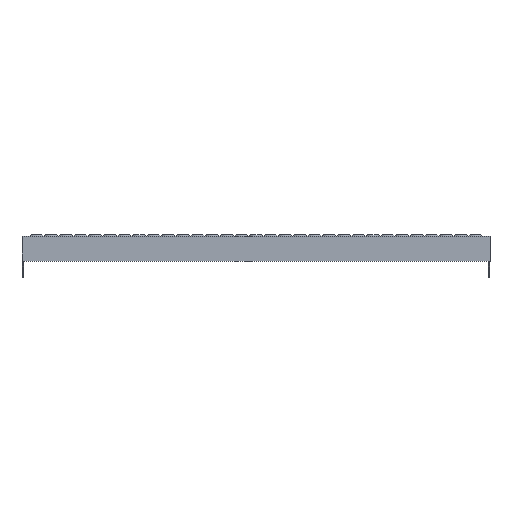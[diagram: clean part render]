
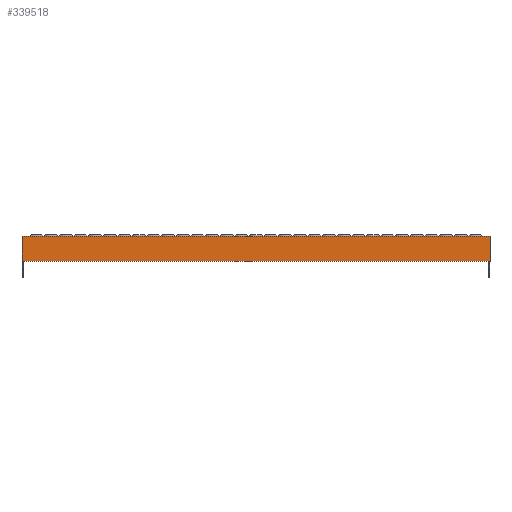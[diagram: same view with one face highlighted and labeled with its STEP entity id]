
A CAD part, front view. The second image highlights one B-rep face of the part: STEP entity #339518.
In plain terms, the highlighted planar face has unit normal (0, -1, 0).
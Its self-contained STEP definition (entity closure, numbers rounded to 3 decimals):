
#339518 = ADVANCED_FACE('',(#339519),#339533,.T.);
#339519 = FACE_BOUND('',#339520,.T.);
#339520 = EDGE_LOOP('',(#339521,#339544,#339560,#339576));
#339521 = ORIENTED_EDGE('',*,*,#339522,.T.);
#339522 = EDGE_CURVE('',#339523,#339525,#339527,.T.);
#339523 = VERTEX_POINT('',#339524);
#339524 = CARTESIAN_POINT('',(6800.,8745.,
    0.));
#339525 = VERTEX_POINT('',#339526);
#339526 = CARTESIAN_POINT('',(6000.,8745.,
    0.));
#339527 = SURFACE_CURVE('',#339528,(#339532),.PCURVE_S1.);
#339528 = LINE('',#339529,#339530);
#339529 = CARTESIAN_POINT('',(6800.,8745.,
    0.));
#339530 = VECTOR('',#339531,1.);
#339531 = DIRECTION('',(-1.,0.,0.));
#339532 = PCURVE('',#339533,#339538);
#339533 = PLANE('',#339534);
#339534 = AXIS2_PLACEMENT_3D('',#339535,#339536,#339537);
#339535 = CARTESIAN_POINT('',(6400.,8745.,
    -21.25));
#339536 = DIRECTION('',(0.,-1.,0.));
#339537 = DIRECTION('',(0.,0.,-1.));
#339538 = DEFINITIONAL_REPRESENTATION('',(#339539),#339543);
#339539 = LINE('',#339540,#339541);
#339540 = CARTESIAN_POINT('',(-21.25,400.));
#339541 = VECTOR('',#339542,1.);
#339542 = DIRECTION('',(0.,-1.));
#339543 = ( GEOMETRIC_REPRESENTATION_CONTEXT(2) 
PARAMETRIC_REPRESENTATION_CONTEXT() REPRESENTATION_CONTEXT('2D SPACE',''
  ) );
#339544 = ORIENTED_EDGE('',*,*,#339545,.T.);
#339545 = EDGE_CURVE('',#339525,#339546,#339548,.T.);
#339546 = VERTEX_POINT('',#339547);
#339547 = CARTESIAN_POINT('',(6000.,8745.,-42.5)
  );
#339548 = SURFACE_CURVE('',#339549,(#339553),.PCURVE_S1.);
#339549 = LINE('',#339550,#339551);
#339550 = CARTESIAN_POINT('',(6000.,8745.,
    0.));
#339551 = VECTOR('',#339552,1.);
#339552 = DIRECTION('',(0.,0.,-1.));
#339553 = PCURVE('',#339533,#339554);
#339554 = DEFINITIONAL_REPRESENTATION('',(#339555),#339559);
#339555 = LINE('',#339556,#339557);
#339556 = CARTESIAN_POINT('',(-21.25,-400.));
#339557 = VECTOR('',#339558,1.);
#339558 = DIRECTION('',(1.,0.));
#339559 = ( GEOMETRIC_REPRESENTATION_CONTEXT(2) 
PARAMETRIC_REPRESENTATION_CONTEXT() REPRESENTATION_CONTEXT('2D SPACE',''
  ) );
#339560 = ORIENTED_EDGE('',*,*,#339561,.T.);
#339561 = EDGE_CURVE('',#339546,#339562,#339564,.T.);
#339562 = VERTEX_POINT('',#339563);
#339563 = CARTESIAN_POINT('',(6800.,8745.,
    -42.5));
#339564 = SURFACE_CURVE('',#339565,(#339569),.PCURVE_S1.);
#339565 = LINE('',#339566,#339567);
#339566 = CARTESIAN_POINT('',(6000.,8745.,-42.5)
  );
#339567 = VECTOR('',#339568,1.);
#339568 = DIRECTION('',(1.,0.,0.));
#339569 = PCURVE('',#339533,#339570);
#339570 = DEFINITIONAL_REPRESENTATION('',(#339571),#339575);
#339571 = LINE('',#339572,#339573);
#339572 = CARTESIAN_POINT('',(21.25,-400.));
#339573 = VECTOR('',#339574,1.);
#339574 = DIRECTION('',(0.,1.));
#339575 = ( GEOMETRIC_REPRESENTATION_CONTEXT(2) 
PARAMETRIC_REPRESENTATION_CONTEXT() REPRESENTATION_CONTEXT('2D SPACE',''
  ) );
#339576 = ORIENTED_EDGE('',*,*,#339577,.T.);
#339577 = EDGE_CURVE('',#339562,#339523,#339578,.T.);
#339578 = SURFACE_CURVE('',#339579,(#339583),.PCURVE_S1.);
#339579 = LINE('',#339580,#339581);
#339580 = CARTESIAN_POINT('',(6800.,8745.,
    -42.5));
#339581 = VECTOR('',#339582,1.);
#339582 = DIRECTION('',(0.,0.,1.));
#339583 = PCURVE('',#339533,#339584);
#339584 = DEFINITIONAL_REPRESENTATION('',(#339585),#339589);
#339585 = LINE('',#339586,#339587);
#339586 = CARTESIAN_POINT('',(21.25,400.));
#339587 = VECTOR('',#339588,1.);
#339588 = DIRECTION('',(-1.,0.));
#339589 = ( GEOMETRIC_REPRESENTATION_CONTEXT(2) 
PARAMETRIC_REPRESENTATION_CONTEXT() REPRESENTATION_CONTEXT('2D SPACE',''
  ) );
